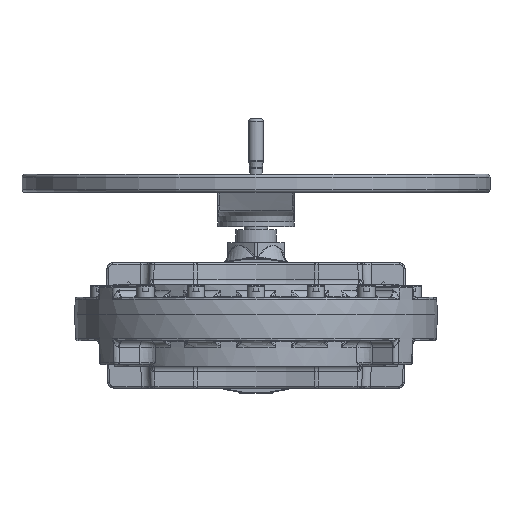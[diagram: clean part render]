
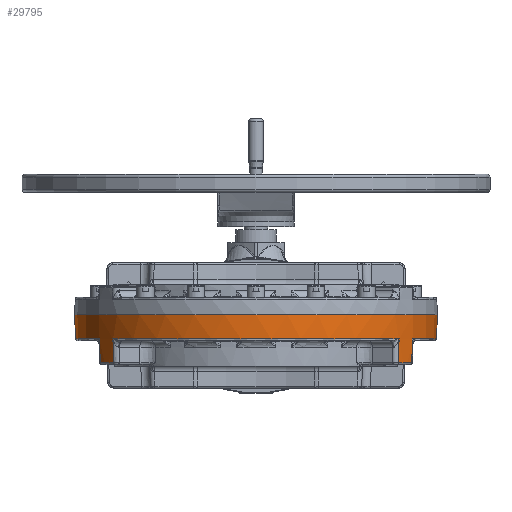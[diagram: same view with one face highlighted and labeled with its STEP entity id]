
A CAD part, front view. The second image highlights one B-rep face of the part: STEP entity #29795.
In plain terms, the highlighted conical face has half-angle 2 degrees and reference radius 310 mm.
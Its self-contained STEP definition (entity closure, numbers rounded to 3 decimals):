
#2960 = DIRECTION ( 'NONE',  ( -0.035, 0., 0.999 ) ) ;
#3279 = VERTEX_POINT ( 'NONE', #11143 ) ;
#4225 = DIRECTION ( 'NONE',  ( 0., 0., 1. ) ) ;
#5382 = VERTEX_POINT ( 'NONE', #36275 ) ;
#7357 = FACE_OUTER_BOUND ( 'NONE', #66044, .T. ) ;
#8197 = VERTEX_POINT ( 'NONE', #119527 ) ;
#9919 = AXIS2_PLACEMENT_3D ( 'NONE', #63385, #151821, #76156 ) ;
#11143 = CARTESIAN_POINT ( 'NONE',  ( -310., 0., 0. ) ) ;
#12886 = ORIENTED_EDGE ( 'NONE', *, *, #162269, .T. ) ;
#16790 = VERTEX_POINT ( 'NONE', #62175 ) ;
#16918 = CARTESIAN_POINT ( 'NONE',  ( 268.676, -154.639, 0. ) ) ;
#17159 = CARTESIAN_POINT ( 'NONE',  ( 0., 0., 0. ) ) ;
#18922 = EDGE_CURVE ( 'NONE', #146969, #85423, #31411, .T. ) ;
#23678 = VERTEX_POINT ( 'NONE', #69407 ) ;
#23793 = CARTESIAN_POINT ( 'NONE',  ( -245.686, -189.046, 0. ) ) ;
#27477 = LINE ( 'NONE', #74126, #57268 ) ;
#29795 = ADVANCED_FACE ( 'NONE', ( #7357 ), #155719, .T. ) ;
#30734 = DIRECTION ( 'NONE',  ( 0., 0., 1. ) ) ;
#31411 = LINE ( 'NONE', #23793, #98832 ) ;
#32275 = EDGE_CURVE ( 'NONE', #23678, #32564, #27477, .T. ) ;
#32564 = VERTEX_POINT ( 'NONE', #95025 ) ;
#33231 = ORIENTED_EDGE ( 'NONE', *, *, #54762, .F. ) ;
#34151 = LINE ( 'NONE', #16918, #101549 ) ;
#36275 = CARTESIAN_POINT ( 'NONE',  ( -308.565, 0., -41.105 ) ) ;
#36705 = DIRECTION ( 'NONE',  ( 0.035, 0., 0.999 ) ) ;
#36923 = DIRECTION ( 'NONE',  ( 0., 0., 1. ) ) ;
#38968 = CIRCLE ( 'NONE', #47809, 308.565 ) ;
#41035 = ORIENTED_EDGE ( 'NONE', *, *, #105170, .T. ) ;
#43599 = DIRECTION ( 'NONE',  ( 0., 0., 1. ) ) ;
#45560 = VERTEX_POINT ( 'NONE', #135692 ) ;
#47809 = AXIS2_PLACEMENT_3D ( 'NONE', #119460, #43599, #132127 ) ;
#54762 = EDGE_CURVE ( 'NONE', #8197, #133223, #94912, .T. ) ;
#54780 = VECTOR ( 'NONE', #2960, 1000. ) ;
#57228 = CARTESIAN_POINT ( 'NONE',  ( 0., 0., -82.105 ) ) ;
#57268 = VECTOR ( 'NONE', #86844, 1000. ) ;
#58328 = CIRCLE ( 'NONE', #9919, 310. ) ;
#62175 = CARTESIAN_POINT ( 'NONE',  ( 310., 0., 0. ) ) ;
#63385 = CARTESIAN_POINT ( 'NONE',  ( 0., 0., 0. ) ) ;
#64094 = ORIENTED_EDGE ( 'NONE', *, *, #18922, .T. ) ;
#65163 = EDGE_CURVE ( 'NONE', #88896, #16790, #123114, .T. ) ;
#66044 = EDGE_LOOP ( 'NONE', ( #145923, #154378, #84794, #123831, #93889, #33231, #41035, #64094, #72304, #108501, #135840, #12886 ) ) ;
#67941 = AXIS2_PLACEMENT_3D ( 'NONE', #80078, #4225, #92758 ) ;
#69407 = CARTESIAN_POINT ( 'NONE',  ( 243.413, -187.298, -82.105 ) ) ;
#69993 = DIRECTION ( 'NONE',  ( 1., 0., 0. ) ) ;
#72304 = ORIENTED_EDGE ( 'NONE', *, *, #89536, .T. ) ;
#74126 = CARTESIAN_POINT ( 'NONE',  ( 245.686, -189.046, 0. ) ) ;
#75700 = AXIS2_PLACEMENT_3D ( 'NONE', #57228, #145770, #69993 ) ;
#76156 = DIRECTION ( 'NONE',  ( 1., 0., 0. ) ) ;
#78523 = CIRCLE ( 'NONE', #90383, 308.565 ) ;
#80078 = CARTESIAN_POINT ( 'NONE',  ( 0., 0., -41.105 ) ) ;
#80337 = DIRECTION ( 'NONE',  ( 0., 0., 1. ) ) ;
#81043 = CARTESIAN_POINT ( 'NONE',  ( 308.565, 0., -41.105 ) ) ;
#81134 = DIRECTION ( 'NONE',  ( -0.03, -0.017, 0.999 ) ) ;
#83558 = CARTESIAN_POINT ( 'NONE',  ( 267.432, -153.923, -41.105 ) ) ;
#84794 = ORIENTED_EDGE ( 'NONE', *, *, #90153, .F. ) ;
#85423 = VERTEX_POINT ( 'NONE', #116121 ) ;
#86844 = DIRECTION ( 'NONE',  ( 0.028, -0.021, 0.999 ) ) ;
#88896 = VERTEX_POINT ( 'NONE', #81043 ) ;
#89536 = EDGE_CURVE ( 'NONE', #85423, #32564, #78523, .T. ) ;
#90153 = EDGE_CURVE ( 'NONE', #3279, #16790, #58328, .T. ) ;
#90383 = AXIS2_PLACEMENT_3D ( 'NONE', #112833, #36923, #125479 ) ;
#92758 = DIRECTION ( 'NONE',  ( 1., 0., 0. ) ) ;
#93545 = DIRECTION ( 'NONE',  ( -1., 0., 0. ) ) ;
#93889 = ORIENTED_EDGE ( 'NONE', *, *, #103948, .T. ) ;
#94912 = LINE ( 'NONE', #156788, #162100 ) ;
#95025 = CARTESIAN_POINT ( 'NONE',  ( 244.548, -188.171, -41.105 ) ) ;
#98832 = VECTOR ( 'NONE', #112375, 1000. ) ;
#101549 = VECTOR ( 'NONE', #105473, 1000. ) ;
#103948 = EDGE_CURVE ( 'NONE', #5382, #133223, #38968, .T. ) ;
#105170 = EDGE_CURVE ( 'NONE', #8197, #146969, #140545, .T. ) ;
#105473 = DIRECTION ( 'NONE',  ( 0.03, -0.017, 0.999 ) ) ;
#106621 = CARTESIAN_POINT ( 'NONE',  ( 0., 0., -82.105 ) ) ;
#108501 = ORIENTED_EDGE ( 'NONE', *, *, #32275, .F. ) ;
#108804 = EDGE_CURVE ( 'NONE', #157308, #88896, #131780, .T. ) ;
#112375 = DIRECTION ( 'NONE',  ( -0.028, -0.021, 0.999 ) ) ;
#112833 = CARTESIAN_POINT ( 'NONE',  ( 0., 0., -41.105 ) ) ;
#114180 = CARTESIAN_POINT ( 'NONE',  ( -267.432, -153.923, -41.105 ) ) ;
#116121 = CARTESIAN_POINT ( 'NONE',  ( -244.548, -188.171, -41.105 ) ) ;
#118619 = CARTESIAN_POINT ( 'NONE',  ( -310., 0., 0. ) ) ;
#118639 = CIRCLE ( 'NONE', #75700, 307.133 ) ;
#119384 = DIRECTION ( 'NONE',  ( 1., 0., 0. ) ) ;
#119460 = CARTESIAN_POINT ( 'NONE',  ( 0., 0., -41.105 ) ) ;
#119527 = CARTESIAN_POINT ( 'NONE',  ( -266.191, -153.209, -82.105 ) ) ;
#121666 = CARTESIAN_POINT ( 'NONE',  ( -243.413, -187.298, -82.105 ) ) ;
#123114 = LINE ( 'NONE', #162854, #152667 ) ;
#123831 = ORIENTED_EDGE ( 'NONE', *, *, #149456, .F. ) ;
#125479 = DIRECTION ( 'NONE',  ( 1., 0., 0. ) ) ;
#128072 = AXIS2_PLACEMENT_3D ( 'NONE', #17159, #80337, #93545 ) ;
#131780 = CIRCLE ( 'NONE', #67941, 308.565 ) ;
#132127 = DIRECTION ( 'NONE',  ( 1., 0., 0. ) ) ;
#133223 = VERTEX_POINT ( 'NONE', #114180 ) ;
#135692 = CARTESIAN_POINT ( 'NONE',  ( 266.191, -153.209, -82.105 ) ) ;
#135840 = ORIENTED_EDGE ( 'NONE', *, *, #152763, .T. ) ;
#140545 = CIRCLE ( 'NONE', #141351, 307.133 ) ;
#141351 = AXIS2_PLACEMENT_3D ( 'NONE', #106621, #30734, #119384 ) ;
#145770 = DIRECTION ( 'NONE',  ( 0., 0., 1. ) ) ;
#145923 = ORIENTED_EDGE ( 'NONE', *, *, #108804, .T. ) ;
#146969 = VERTEX_POINT ( 'NONE', #121666 ) ;
#149456 = EDGE_CURVE ( 'NONE', #5382, #3279, #155703, .T. ) ;
#151821 = DIRECTION ( 'NONE',  ( 0., 0., 1. ) ) ;
#152667 = VECTOR ( 'NONE', #36705, 1000. ) ;
#152763 = EDGE_CURVE ( 'NONE', #23678, #45560, #118639, .T. ) ;
#154378 = ORIENTED_EDGE ( 'NONE', *, *, #65163, .T. ) ;
#155703 = LINE ( 'NONE', #118619, #54780 ) ;
#155719 = CONICAL_SURFACE ( 'NONE', #128072, 310., 0.035 ) ;
#156788 = CARTESIAN_POINT ( 'NONE',  ( -268.676, -154.639, 0. ) ) ;
#157308 = VERTEX_POINT ( 'NONE', #83558 ) ;
#162100 = VECTOR ( 'NONE', #81134, 1000. ) ;
#162269 = EDGE_CURVE ( 'NONE', #45560, #157308, #34151, .T. ) ;
#162854 = CARTESIAN_POINT ( 'NONE',  ( 310., 0., 0. ) ) ;
